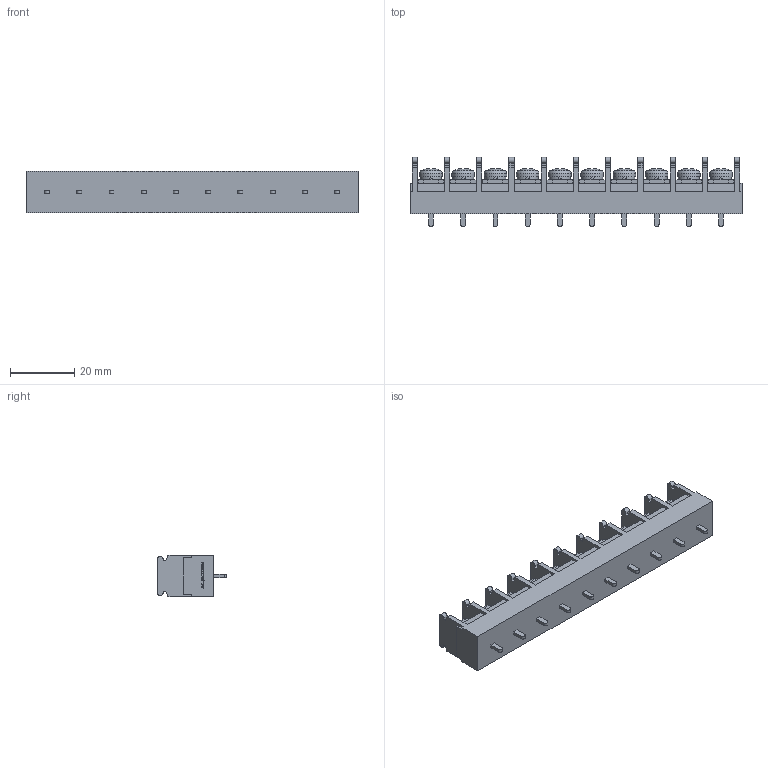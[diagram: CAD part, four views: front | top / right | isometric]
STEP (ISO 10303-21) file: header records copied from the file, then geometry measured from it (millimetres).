
FILE_DESCRIPTION(/* description */ ('Alibre Inc.'),/* implementation_level */ '2;1');
FILE_NAME(/* name */ 'export0',/* time_stamp */ '2015-10-17T19:44:32+09:00',/* author */ (''),/* organization */ (''),/* preprocessor_version */ 'ST-DEVELOPER v14',/* originating_system */ 'Alibre',/* authorisation */ '');
FILE_SCHEMA (('CONFIG_CONTROL_DESIGN'));
Length unit declared in the file: centimetre
Products named in the file (1): ID_1
Bounding box: 103 x 21.5 x 13 mm (x, y, z)
Volume: 15818.7 mm3; surface area: 8879.1 mm2
Topology: 1 solids, 17 shells, 994 faces, 2660 edges, 1770 vertices
Faces by surface type: plane 768, bspline 104, cylinder 62, cone 40, sphere 10, torus 10
Full cylindrical faces by diameter (mm): 6.5 x10, 7 x10
Entity records: 30341 total; most frequent: CARTESIAN_POINT 6681, ORIENTED_EDGE 5280, DIRECTION 3790, EDGE_CURVE 2640, VECTOR 1978, LINE 1978, VERTEX_POINT 1770, AXIS2_PLACEMENT_3D 1285
